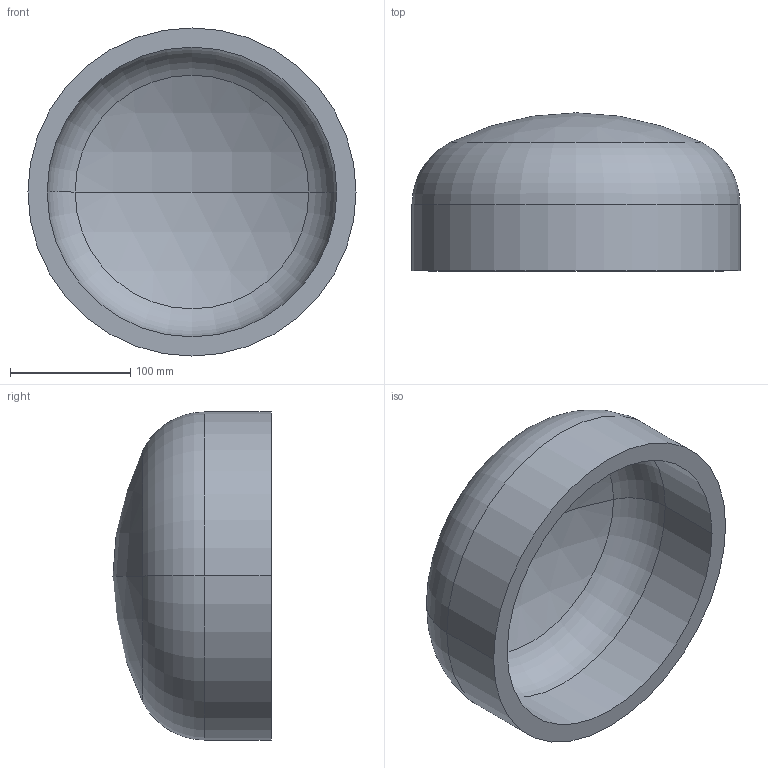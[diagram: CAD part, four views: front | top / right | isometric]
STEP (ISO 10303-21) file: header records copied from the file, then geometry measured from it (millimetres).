
FILE_DESCRIPTION (( 'STEP AP203' ), '1' );
FILE_NAME ('DIN 28013 Korbbogenform_-_Boden DIN 28013 - 273 x 55 - I - s=16.step', '2016-07-01T07:43:16', ( '' ), ( '' ), 'SwSTEP 2.0', 'SolidWorks 2013', '' );
FILE_SCHEMA (( 'CONFIG_CONTROL_DESIGN' ));
Length unit declared in the file: millimetre
Products named in the file (1): DIN 28013 Korbbogenform_-_Boden DIN 28013 - 273 x 55 - I - s=16
Bounding box: 273 x 131.48 x 273 mm (x, y, z)
Volume: 1914013.2 mm3; surface area: 252706 mm2
Topology: 1 solids, 1 shells, 13 faces, 24 edges, 14 vertices
Faces by surface type: torus 4, cylinder 4, sphere 4, plane 1
Entity records: 407 total; most frequent: DIRECTION 72, CARTESIAN_POINT 52, ORIENTED_EDGE 48, AXIS2_PLACEMENT_3D 34, EDGE_CURVE 24, CIRCLE 20, EDGE_LOOP 14, VERTEX_POINT 14
